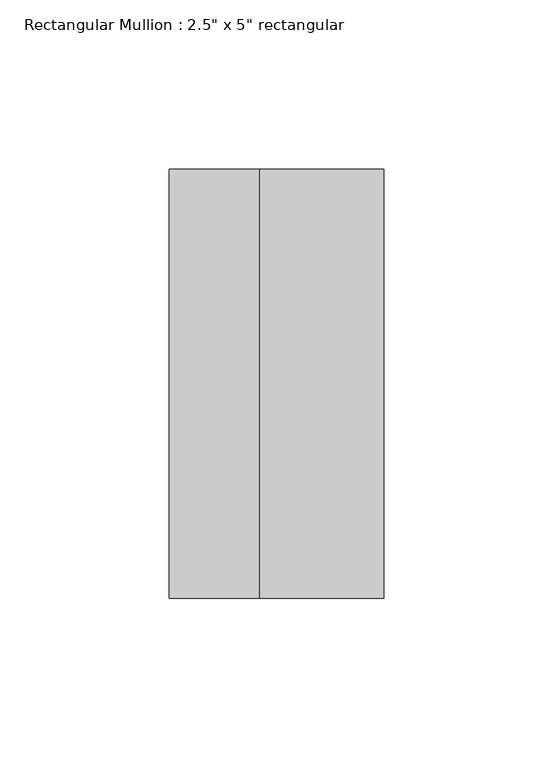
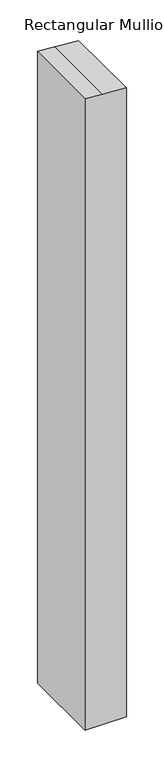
"""IFC4 building model written with IfcOpenShell, lengths in millimetres: member geometry."""

from ifc_helpers import new_model, si_unit, point, frame, frame_2d, origin, place, context, project, spatial, polyline, circle_curve, trimmed, segment, composite_curve, outline, extrude, source, transform, mapped, element, save


def member_4be9bcbc(model_context):
    return source(origin(), model_context, "Body", "SweptSolid", [
        extrude(outline(composite_curve([segment(trimmed(circle_curve(frame_2d((-3950.6595297, -304.8)), 3898.9), [point((-66.3120546, 31.75))], [point((-63.3118556, -4.8845622))], False, "CARTESIAN"), True, "CONTINUOUS"), segment(trimmed(circle_curve(frame_2d((-3950.6595297, -304.8)), 3898.9), [point((-63.3118556, -4.8845622))], [point((-61.332479, -31.75))], False, "CARTESIAN"), True, "CONTINUOUS"), segment(polyline([(-61.332479, -31.75), (-1088.6238157, -31.75), (-1088.6238157, 31.75), (-66.3120546, 31.75)]), True, "CONTINUOUS")], self_intersect=False)), frame((0.0, -63.5, 0.0), z_axis=(0.0, 1.0, 0.0), x_axis=(0.0, 0.0, 1.0)), (0.0, 0.0, 1.0), 127.0),
    ])


if __name__ == "__main__":
    model = new_model("IFC4")
    model_context = context("Model", 3, world=origin())
    ifc_project = project(units=[si_unit("LENGTHUNIT", "METRE", prefix="MILLI")], contexts=[model_context])
    site = spatial("IfcSite", under=ifc_project)
    building = spatial("IfcBuilding", under=site)
    placement = place(None, origin())
    member_shape = member_4be9bcbc(model_context)
    element("IfcMember", 1, ObjectType="Rectangular Mullion : 2.5\" x 5\" rectangular", at=placement, inside=building, context=model_context, shape_type="MappedRepresentation", body=[
        mapped(member_shape, transform((0.0, 0.0, 0.0), x_axis=(1.0, 0.0, 0.0), y_axis=(0.0, 1.0, 0.0), z_axis=(0.0, 0.0, 1.0))),
    ])
    save(model, "model.ifc")
